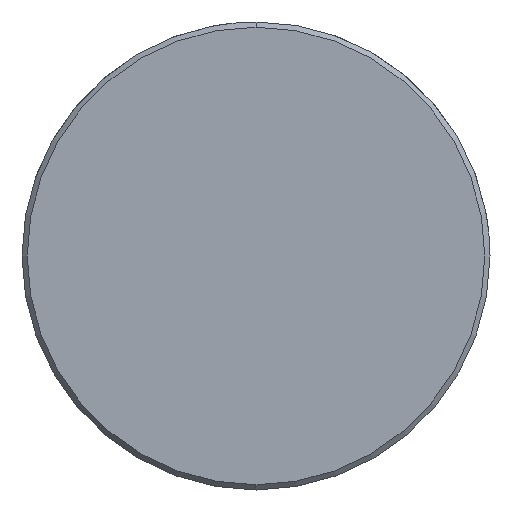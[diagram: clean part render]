
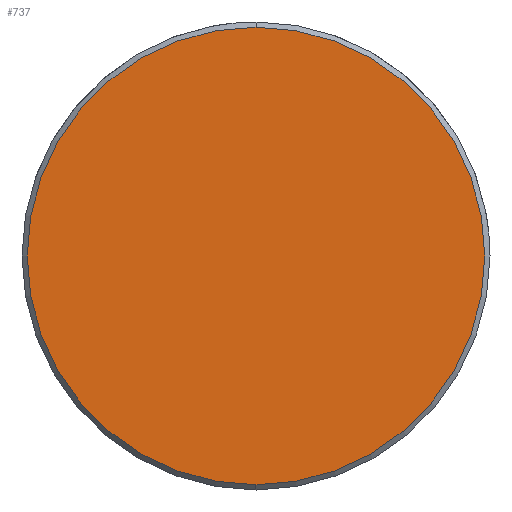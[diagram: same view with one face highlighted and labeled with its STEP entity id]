
A CAD part, left-side view. The second image highlights one B-rep face of the part: STEP entity #737.
In plain terms, the highlighted planar face has unit normal (-1, 0, 0).
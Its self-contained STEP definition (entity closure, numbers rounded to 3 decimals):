
#669=CARTESIAN_POINT('Vertex',(0.,0.,-13.2)) ;
#672=CARTESIAN_POINT('Axis2P3D Location',(0.,0.,0.)) ;
#676=CARTESIAN_POINT('Vertex',(0.,13.2,0.)) ;
#679=CARTESIAN_POINT('Axis2P3D Location',(0.,0.,0.)) ;
#683=CARTESIAN_POINT('Vertex',(0.,0.,13.2)) ;
#705=CARTESIAN_POINT('Axis2P3D Location',(0.,0.,0.)) ;
#709=CARTESIAN_POINT('Vertex',(0.,-13.2,0.)) ;
#712=CARTESIAN_POINT('Axis2P3D Location',(0.,0.,0.)) ;
#726=CARTESIAN_POINT('Axis2P3D Location',(0.,0.,0.)) ;
#673=DIRECTION('Axis2P3D Direction',(1.,0.,-0.)) ;
#680=DIRECTION('Axis2P3D Direction',(1.,0.,-0.)) ;
#706=DIRECTION('Axis2P3D Direction',(1.,0.,-0.)) ;
#713=DIRECTION('Axis2P3D Direction',(1.,0.,-0.)) ;
#727=DIRECTION('Axis2P3D Direction',(1.,0.,-0.)) ;
#728=DIRECTION('Axis2P3D XDirection',(-0.,0.,-1.)) ;
#674=AXIS2_PLACEMENT_3D('Circle Axis2P3D',#672,#673,$) ;
#681=AXIS2_PLACEMENT_3D('Circle Axis2P3D',#679,#680,$) ;
#707=AXIS2_PLACEMENT_3D('Circle Axis2P3D',#705,#706,$) ;
#714=AXIS2_PLACEMENT_3D('Circle Axis2P3D',#712,#713,$) ;
#729=AXIS2_PLACEMENT_3D('Plane Axis2P3D',#726,#727,#728) ;
#732=ORIENTED_EDGE('',*,*,#678,.F.) ;
#733=ORIENTED_EDGE('',*,*,#716,.F.) ;
#734=ORIENTED_EDGE('',*,*,#711,.F.) ;
#735=ORIENTED_EDGE('',*,*,#685,.F.) ;
#737=ADVANCED_FACE('549-24X280',(#736),#730,.F.) ;
#675=CIRCLE('generated circle',#674,13.2) ;
#682=CIRCLE('generated circle',#681,13.2) ;
#708=CIRCLE('generated circle',#707,13.2) ;
#715=CIRCLE('generated circle',#714,13.2) ;
#678=EDGE_CURVE('',#670,#677,#675,.T.) ;
#685=EDGE_CURVE('',#677,#684,#682,.T.) ;
#711=EDGE_CURVE('',#684,#710,#708,.T.) ;
#716=EDGE_CURVE('',#710,#670,#715,.T.) ;
#731=EDGE_LOOP('',(#732,#733,#734,#735)) ;
#736=FACE_OUTER_BOUND('',#731,.T.) ;
#730=PLANE('Plane',#729) ;
#670=VERTEX_POINT('',#669) ;
#677=VERTEX_POINT('',#676) ;
#684=VERTEX_POINT('',#683) ;
#710=VERTEX_POINT('',#709) ;
